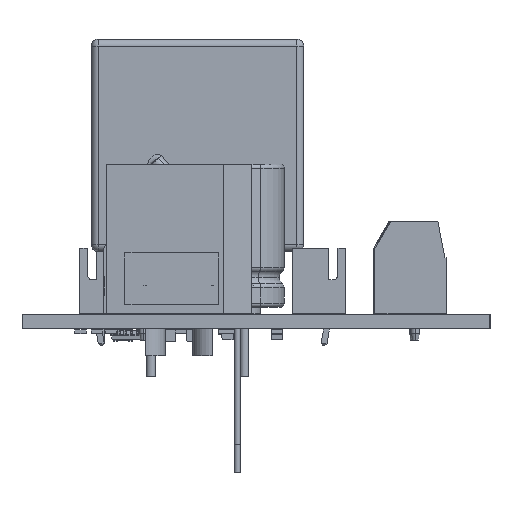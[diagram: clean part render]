
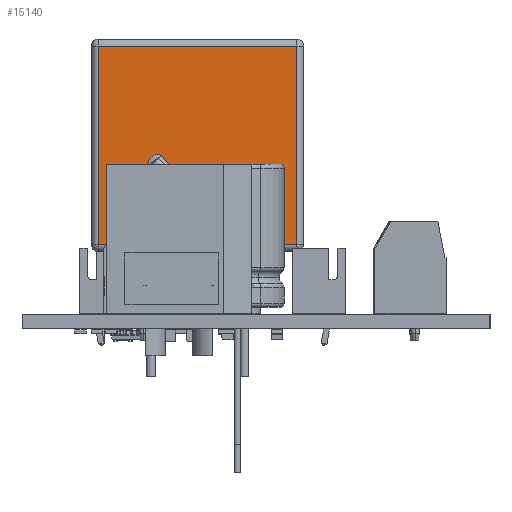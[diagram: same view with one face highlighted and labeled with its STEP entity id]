
A CAD part, left-side view. The second image highlights one B-rep face of the part: STEP entity #15140.
In plain terms, the highlighted planar face has unit normal (-1, 0, 0) as drawn and (0, 0, -1) by its records, which use the part's own axes.
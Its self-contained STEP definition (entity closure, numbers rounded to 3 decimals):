
#14330 = VERTEX_POINT('',#14331);
#14331 = CARTESIAN_POINT('',(-1.628,-10.6,-0.96));
#14387 = EDGE_CURVE('',#14388,#14330,#14390,.T.);
#14388 = VERTEX_POINT('',#14389);
#14389 = CARTESIAN_POINT('',(-1.628,-10.1,-0.96));
#14390 = LINE('',#14391,#14392);
#14391 = CARTESIAN_POINT('',(-1.628,-10.1,-0.96));
#14392 = VECTOR('',#14393,1.);
#14393 = DIRECTION('',(0.,-1.,0.));
#14413 = VERTEX_POINT('',#14414);
#14414 = CARTESIAN_POINT('',(-1.596,-10.016,-0.96));
#14421 = EDGE_CURVE('',#14413,#14388,#14422,.T.);
#14422 = CIRCLE('',#14423,0.128);
#14423 = AXIS2_PLACEMENT_3D('',#14424,#14425,#14426);
#14424 = CARTESIAN_POINT('',(-1.5,-10.1,-0.96));
#14425 = DIRECTION('',(0.,0.,1.));
#14426 = DIRECTION('',(-0.936,0.352,0.));
#14458 = EDGE_CURVE('',#14459,#14413,#14461,.T.);
#14459 = VERTEX_POINT('',#14460);
#14460 = CARTESIAN_POINT('',(5.176,-2.278,-0.96));
#14461 = LINE('',#14462,#14463);
#14462 = CARTESIAN_POINT('',(5.242,-2.203,-0.96));
#14463 = VECTOR('',#14464,1.);
#14464 = DIRECTION('',(-0.659,-0.752,0.));
#14482 = VERTEX_POINT('',#14483);
#14483 = CARTESIAN_POINT('',(3.864,-1.13,-0.96));
#14492 = EDGE_CURVE('',#14482,#14459,#14493,.T.);
#14493 = B_SPLINE_CURVE_WITH_KNOTS('',3,(#14494,#14495,#14496,#14497,
    #14498,#14499,#14500,#14501,#14502,#14503),.UNSPECIFIED.,.F.,.F.,(4,
    1,1,1,1,1,1,4),(0.232,0.265,0.298,
    0.332,0.365,0.398,0.431,
    0.464),.UNSPECIFIED.);
#14494 = CARTESIAN_POINT('',(3.864,-1.13,-0.96));
#14495 = CARTESIAN_POINT('',(3.936,-1.047,-0.96));
#14496 = CARTESIAN_POINT('',(4.145,-0.939,-0.96));
#14497 = CARTESIAN_POINT('',(4.485,-0.993,-0.96));
#14498 = CARTESIAN_POINT('',(4.769,-1.167,-0.96));
#14499 = CARTESIAN_POINT('',(5.019,-1.386,-0.96));
#14500 = CARTESIAN_POINT('',(5.229,-1.644,-0.96));
#14501 = CARTESIAN_POINT('',(5.327,-1.974,-0.96));
#14502 = CARTESIAN_POINT('',(5.248,-2.195,-0.96));
#14503 = CARTESIAN_POINT('',(5.176,-2.278,-0.96));
#14572 = EDGE_CURVE('',#14573,#14482,#14575,.T.);
#14573 = VERTEX_POINT('',#14574);
#14574 = CARTESIAN_POINT('',(-2.908,-8.867,-0.96));
#14575 = LINE('',#14576,#14577);
#14576 = CARTESIAN_POINT('',(3.93,-1.055,-0.96));
#14577 = VECTOR('',#14578,1.);
#14578 = DIRECTION('',(0.659,0.752,0.));
#14604 = EDGE_CURVE('',#14605,#14607,#14609,.T.);
#14605 = VERTEX_POINT('',#14606);
#14606 = CARTESIAN_POINT('',(-3.372,-10.6,-0.96));
#14607 = VERTEX_POINT('',#14608);
#14608 = CARTESIAN_POINT('',(-3.372,-10.1,-0.96));
#14609 = LINE('',#14610,#14611);
#14610 = CARTESIAN_POINT('',(-3.372,-10.1,-0.96));
#14611 = VECTOR('',#14612,1.);
#14612 = DIRECTION('',(0.,1.,0.));
#14716 = EDGE_CURVE('',#14607,#14573,#14717,.T.);
#14717 = CIRCLE('',#14718,1.872);
#14718 = AXIS2_PLACEMENT_3D('',#14719,#14720,#14721);
#14719 = CARTESIAN_POINT('',(-1.5,-10.1,-0.96));
#14720 = DIRECTION('',(0.,0.,-1.));
#14721 = DIRECTION('',(-0.936,0.352,0.));
#15140 = ADVANCED_FACE('',(#15141),#15188,.F.);
#15141 = FACE_BOUND('',#15142,.T.);
#15142 = EDGE_LOOP('',(#15143,#15144,#15145,#15146,#15147,#15148,#15149,
    #15150,#15158,#15166,#15174,#15182));
#15143 = ORIENTED_EDGE('',*,*,#14387,.F.);
#15144 = ORIENTED_EDGE('',*,*,#14421,.F.);
#15145 = ORIENTED_EDGE('',*,*,#14458,.F.);
#15146 = ORIENTED_EDGE('',*,*,#14492,.F.);
#15147 = ORIENTED_EDGE('',*,*,#14572,.F.);
#15148 = ORIENTED_EDGE('',*,*,#14716,.F.);
#15149 = ORIENTED_EDGE('',*,*,#14604,.F.);
#15150 = ORIENTED_EDGE('',*,*,#15151,.F.);
#15151 = EDGE_CURVE('',#15152,#14605,#15154,.T.);
#15152 = VERTEX_POINT('',#15153);
#15153 = CARTESIAN_POINT('',(-10.6,-10.6,-0.96));
#15154 = LINE('',#15155,#15156);
#15155 = CARTESIAN_POINT('',(-5.3,-10.6,-0.96));
#15156 = VECTOR('',#15157,1.);
#15157 = DIRECTION('',(1.,0.,0.));
#15158 = ORIENTED_EDGE('',*,*,#15159,.F.);
#15159 = EDGE_CURVE('',#15160,#15152,#15162,.T.);
#15160 = VERTEX_POINT('',#15161);
#15161 = CARTESIAN_POINT('',(-10.6,10.6,-0.96));
#15162 = LINE('',#15163,#15164);
#15163 = CARTESIAN_POINT('',(-10.6,5.3,-0.96));
#15164 = VECTOR('',#15165,1.);
#15165 = DIRECTION('',(0.,-1.,0.));
#15166 = ORIENTED_EDGE('',*,*,#15167,.F.);
#15167 = EDGE_CURVE('',#15168,#15160,#15170,.T.);
#15168 = VERTEX_POINT('',#15169);
#15169 = CARTESIAN_POINT('',(10.6,10.6,-0.96));
#15170 = LINE('',#15171,#15172);
#15171 = CARTESIAN_POINT('',(5.3,10.6,-0.96));
#15172 = VECTOR('',#15173,1.);
#15173 = DIRECTION('',(-1.,0.,0.));
#15174 = ORIENTED_EDGE('',*,*,#15175,.F.);
#15175 = EDGE_CURVE('',#15176,#15168,#15178,.T.);
#15176 = VERTEX_POINT('',#15177);
#15177 = CARTESIAN_POINT('',(10.6,-10.6,-0.96));
#15178 = LINE('',#15179,#15180);
#15179 = CARTESIAN_POINT('',(10.6,-5.3,-0.96));
#15180 = VECTOR('',#15181,1.);
#15181 = DIRECTION('',(0.,1.,0.));
#15182 = ORIENTED_EDGE('',*,*,#15183,.F.);
#15183 = EDGE_CURVE('',#14330,#15176,#15184,.T.);
#15184 = LINE('',#15185,#15186);
#15185 = CARTESIAN_POINT('',(-5.3,-10.6,-0.96));
#15186 = VECTOR('',#15187,1.);
#15187 = DIRECTION('',(1.,0.,0.));
#15188 = PLANE('',#15189);
#15189 = AXIS2_PLACEMENT_3D('',#15190,#15191,#15192);
#15190 = CARTESIAN_POINT('',(0.,0.,-0.96));
#15191 = DIRECTION('',(0.,0.,1.));
#15192 = DIRECTION('',(1.,0.,-0.));
